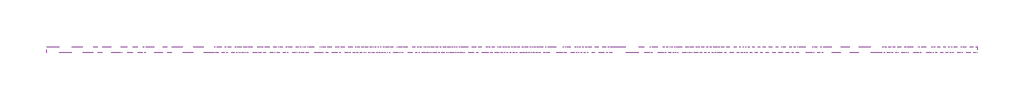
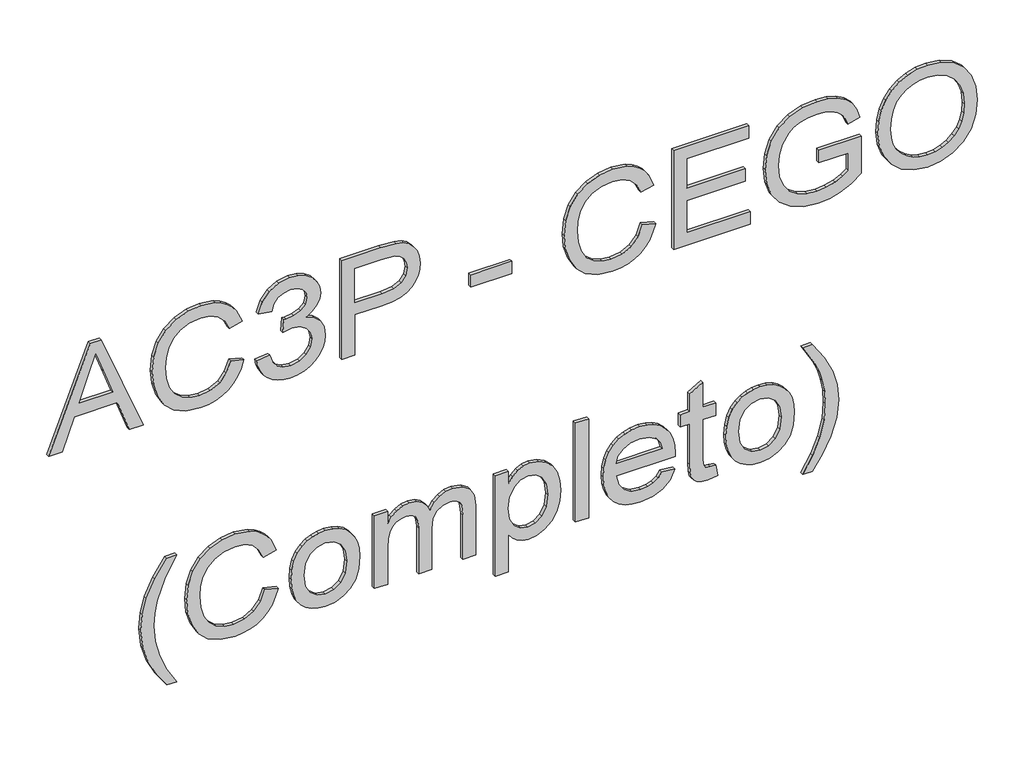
# One storey, part 6 of 12: 1 proxy.
"""IFC4 building model written with IfcOpenShell, lengths in millimetres."""

import ifcopenshell
import ifcopenshell.guid

model = None  # the IFC model being written
_history = None  # IfcOwnerHistory: only IFC2X3 demands one
_inside = {}  # id of a spatial element -> (the spatial element, [elements in it])
_under = {}  # id of a project, library or spatial element -> (it, [spatial elements below it])
_declared = {}  # id of a project -> (the project, [libraries it declares])
_typed = {}  # id of a type object -> (the type object, [elements of that type])
_made_of = {}  # id of a material, layer set ... -> (it, [elements and type objects made of it])


def new_model(schema):
    """Start an empty IFC model of exactly this schema.

    Asked for "IFC4X3", IfcOpenShell would pick the latest addendum, in which some entities
    have other attributes; the version numbers below select the first issue.
    IFC2X3 requires an IfcOwnerHistory on every rooted entity: one is made here for all.
    """
    global model, _history
    if schema == "IFC4X3":
        model = ifcopenshell.file(schema_version=(4, 3, 0, 0))
    else:
        model = ifcopenshell.file(schema=schema)
    _inside.clear()
    _under.clear()
    _declared.clear()
    _typed.clear()
    _made_of.clear()
    _history = None
    if model.schema == "IFC2X3":
        org = make("IfcOrganization", Name="unknown")
        user = make(
            "IfcPersonAndOrganization",
            ThePerson=make("IfcPerson", FamilyName="unknown"),
            TheOrganization=org,
        )
        app = make(
            "IfcApplication",
            ApplicationDeveloper=org,
            Version="unknown",
            ApplicationFullName="unknown",
            ApplicationIdentifier="unknown",
        )
        _history = make(
            "IfcOwnerHistory",
            OwningUser=user,
            OwningApplication=app,
            ChangeAction="ADDED",
            CreationDate=0,
        )
    return model


def make(cls, **values):
    """One entity of the class cls with the attributes given. An attribute that is None is left unset."""
    return model.create_entity(
        cls, **{name: value for name, value in values.items() if value is not None}
    )


def rooted(cls, **values):
    """An entity with a GlobalId (a new one), such as an element, a storey or a relation."""
    return make(cls, GlobalId=ifcopenshell.guid.new(), OwnerHistory=_history, **values)


def si_unit(unit_type, name, prefix=None):
    """IfcSIUnit, for example si_unit("LENGTHUNIT", "METRE", prefix="MILLI")."""
    return make("IfcSIUnit", UnitType=unit_type, Prefix=prefix, Name=name)


def assignment(units):
    """IfcUnitAssignment: the units of a project."""
    return None if units is None else make("IfcUnitAssignment", Units=units)


def point(xyz):
    """IfcCartesianPoint."""
    return None if xyz is None else make("IfcCartesianPoint", Coordinates=xyz)


def direction(xyz):
    """IfcDirection."""
    return None if xyz is None else make("IfcDirection", DirectionRatios=xyz)


def frame(location, z_axis=None, x_axis=None):
    """IfcAxis2Placement3D, a coordinate frame: its origin and axes. An axis left out is left unset."""
    return make(
        "IfcAxis2Placement3D",
        Location=point(location),
        Axis=direction(z_axis),
        RefDirection=direction(x_axis),
    )


def origin():
    """The frame at (0, 0, 0) with its axes left unset."""
    return frame((0.0, 0.0, 0.0))


def place(relative_to, where):
    """IfcLocalPlacement: puts the frame where relative to a parent placement (None: the world)."""
    return make(
        "IfcLocalPlacement", PlacementRelTo=relative_to, RelativePlacement=where
    )


def context(
    kind, dimensions, precision=None, world=None, true_north=None, identifier=None
):
    """IfcGeometricRepresentationContext, for example the 3D "Model" context."""
    return make(
        "IfcGeometricRepresentationContext",
        ContextIdentifier=identifier,
        ContextType=kind,
        CoordinateSpaceDimension=dimensions,
        Precision=precision,
        WorldCoordinateSystem=world,
        TrueNorth=true_north,
    )


def project(units=None, contexts=None):
    """IfcProject with its units and contexts."""
    return rooted(
        "IfcProject",
        Name="project",
        RepresentationContexts=contexts,
        UnitsInContext=assignment(units),
    )


def spatial(cls, under=None, at=None, **own):
    """A site, building, storey or space (cls), placed at a placement, below another one or the project."""
    s = rooted(cls, ObjectPlacement=at, **own)
    if under is not None:
        _under.setdefault(under.id(), (under, []))[1].append(s)
    return s


def polyline(points):
    """IfcPolyline through the points."""
    return make("IfcPolyline", Points=[point(p) for p in points])


def outline(outer, holes=None, kind="AREA"):
    """IfcArbitraryClosedProfileDef: a profile drawn as a closed curve; with holes, ...WithVoids."""
    if holes is None:
        return make("IfcArbitraryClosedProfileDef", ProfileType=kind, OuterCurve=outer)
    return make(
        "IfcArbitraryProfileDefWithVoids",
        ProfileType=kind,
        OuterCurve=outer,
        InnerCurves=holes,
    )


def extrude(swept, where, along, depth):
    """IfcExtrudedAreaSolid: the profile swept, set in the frame where, extruded along a direction by depth."""
    return make(
        "IfcExtrudedAreaSolid",
        SweptArea=swept,
        Position=where,
        ExtrudedDirection=direction(along),
        Depth=depth,
    )


def shape(context_of_items, identifier, shape_type, items):
    """IfcShapeRepresentation: the items that make up one representation, for example the "Body"."""
    return make(
        "IfcShapeRepresentation",
        ContextOfItems=context_of_items,
        RepresentationIdentifier=identifier,
        RepresentationType=shape_type,
        Items=items,
    )


def made_of(thing, what):
    """Note that an element or type object is made of a material, layer set ...; save() writes the relation."""
    if what is not None:
        _made_of.setdefault(what.id(), (what, []))[1].append(thing)
    return thing


def element(
    cls,
    number,
    at=None,
    inside=None,
    cuts=None,
    type_object=None,
    material=None,
    context=None,
    identifier="Body",
    shape_type=None,
    held_by="IfcProductDefinitionShape",
    body=None,
    shapes=None,
    **own,
):
    """One element of the class cls, such as IfcWall. Its Tag is "e" and its number.

    at: its placement. inside: the storey or other place that contains it. cuts: it is an
    opening in that element (IfcRelVoidsElement). A single representation is given by context,
    identifier, shape_type and body (its items); several are given by shapes. held_by: the class
    of the entity that holds the representations. save() writes the other relations.
    """
    e = rooted(cls, Tag="e%d" % number, ObjectPlacement=at, **own)
    if body is not None:
        shapes = [shape(context, identifier, shape_type, body)]
    if shapes is not None:
        e.Representation = make(held_by, Representations=shapes)
    if inside is not None:
        _inside.setdefault(inside.id(), (inside, []))[1].append(e)
    if cuts is not None:
        rooted(
            "IfcRelVoidsElement", RelatingBuildingElement=cuts, RelatedOpeningElement=e
        )
    if type_object is not None:
        _typed.setdefault(type_object.id(), (type_object, []))[1].append(e)
    return made_of(e, material)


def aggregate(whole, parts):
    """IfcRelAggregates: a whole, such as a stair, and the parts it consists of."""
    return rooted("IfcRelAggregates", RelatingObject=whole, RelatedObjects=parts)


def save(model, path):
    """Write the relations noted so far, then the file.

    IfcRelAggregates (storeys below a building ...), IfcRelContainedInSpatialStructure (elements
    in a storey), IfcRelDefinesByType, IfcRelAssociatesMaterial and IfcRelDeclares: one each for
    every whole, place, type object, material and project.
    """
    for whole, parts in _under.values():
        aggregate(whole, parts)
    for where, things in _inside.values():
        rooted(
            "IfcRelContainedInSpatialStructure",
            RelatedElements=things,
            RelatingStructure=where,
        )
    for kind, things in _typed.values():
        rooted("IfcRelDefinesByType", RelatedObjects=things, RelatingType=kind)
    for what, things in _made_of.values():
        rooted("IfcRelAssociatesMaterial", RelatedObjects=things, RelatingMaterial=what)
    for by, libraries in _declared.values():
        rooted("IfcRelDeclares", RelatingContext=by, RelatedDefinitions=libraries)
    model.write(path)


model = new_model("IFC4")

# Units and contexts
model_context = context("Model", 3, world=origin())
ifc_project = project(units=[si_unit("LENGTHUNIT", "METRE", prefix="MILLI")], contexts=[model_context])

# Site, building, storey
site = spatial("IfcSite", under=ifc_project)
building = spatial("IfcBuilding", under=site)
storey = spatial("IfcBuildingStorey", under=building, Name="02 - Marelli - Planta Baixa - Painéis Cego", Elevation=12000.0)

# Proxy
placement = place(None, origin())
element("IfcBuildingElementProxy", 1, Name="300mm Arial", ObjectType="300mm Arial", at=placement, inside=storey, context=model_context, shape_type="SweptSolid", body=[
    extrude(outline(polyline([(17965.9244535, 27526.1420514), (17965.9244535, 27565.9468833), (18060.1022443, 27600.380638), (18060.1022443, 27724.5040232), (17965.9244535, 27759.0113544), (17965.9244535, 27798.8161862), (18267.293384, 27678.5187738), (18267.293384, 27646.4394638), (17965.9244535, 27526.1420514)]), holes=[polyline([(18097.7733606, 27614.2130011), (18178.3395176, 27643.7171371), (18229.6222677, 27662.4791188), (18171.8647944, 27683.5955453), (18097.7733606, 27710.7452366), (18097.7733606, 27614.2130011)])]), frame((0.0, 8778.3159498, 0.0), z_axis=(0.0, 1.0, 0.0), x_axis=(0.0, 0.0, 1.0)), (0.0, 0.0, 1.0), 10.0),
    extrude(outline(polyline([(18073.0516905, 28050.9625057), (18040.7884396, 28038.7764146), (18017.5750857, 28018.9935603), (18003.5587816, 27992.7911652), (17998.8866803, 27961.3464517), (18002.3171799, 27934.3715044), (18012.6086787, 27909.3647258), (18029.8347531, 27888.5058167), (18054.0689796, 27873.9744778), (18084.1617268, 27865.4488126), (18118.9633635, 27862.6069242), (18147.3822477, 27865.0073542), (18174.9550032, 27872.2086443), (18199.3455795, 27885.3328344), (18218.2179258, 27905.5019648), (18230.3028494, 27932.081439), (18234.3311572, 27964.4366605), (18230.6983225, 27992.5060567), (18219.7998184, 28015.3515286), (18200.9550632, 28033.1938054), (18173.4834752, 28046.2536162), (18182.4597959, 28083.9247325), (18220.278065, 28067.2872693), (18235.6003501, 28055.485155), (18248.5314022, 28041.3607857), (18258.7999084, 28025.1808757), (18266.1345557, 28007.2121394), (18272.0022735, 27965.9081884), (18267.4681279, 27928.0531311), (18253.8656912, 27893.5090118), (18231.526057, 27864.3819548), (18200.7803193, 27842.7780847), (18162.8332915, 27829.3963771), (18118.8897871, 27824.9358079), (18077.2271512, 27828.8813423), (18038.3236302, 27840.7179455), (18005.2326447, 27860.1053266), (17981.0076153, 27886.7031949), (17966.1635768, 27921.4036641), (17961.215564, 27965.0988481), (17962.8503396, 27987.5212557), (17967.7546665, 28008.1410415), (17975.9285445, 28026.9582055), (17987.3719739, 28043.9727478), (18001.9286046, 28058.848976), (18019.4420868, 28071.2511978), (18039.9124206, 28081.1794131), (18063.3396059, 28088.633622), (18073.0516905, 28050.9625057)])), frame((0.0, 8778.3159498, 0.0), z_axis=(0.0, 1.0, 0.0), x_axis=(0.0, 0.0, 1.0)), (0.0, 0.0, 1.0), 10.0),
    extrude(outline(polyline([(18045.9755757, 28126.3047383), (18028.0827151, 28129.5558955), (18011.928097, 28135.6305469), (17997.5117213, 28144.5286927), (17984.8335881, 28156.2503327), (17974.5007025, 28170.2298486), (17967.12007, 28185.9016216), (17962.6916905, 28203.2656517), (17961.215564, 28222.3219391), (17962.9446094, 28243.4061759), (17968.1317455, 28262.5866235), (17976.7769724, 28279.8632817), (17988.88029, 28295.2361505), (18003.4668111, 28307.854503), (18019.5616484, 28316.8676118), (18037.1648019, 28322.2754772), (18056.2762716, 28324.0780989), (18083.2420218, 28320.4728554), (18105.2781533, 28309.6571247), (18121.5017493, 28292.18273), (18131.029893, 28268.6014941), (18141.9008059, 28286.5541354), (18155.9722922, 28299.5035817), (18172.4901938, 28307.3394682), (18190.7003526, 28309.9514303), (18210.2440836, 28307.2015124), (18228.7025627, 28298.9517587), (18244.7238236, 28285.5056718), (18256.9558999, 28267.1667543), (18264.709013, 28245.4157313), (18267.293384, 28221.7333279), (18262.0510656, 28188.8446775), (18246.3241103, 28161.8421391), (18221.0690113, 28142.10527), (18187.2422618, 28131.0136279), (18182.5333723, 28168.6847442), (18203.134764, 28175.3618024), (18217.8500438, 28187.1524203), (18226.6792117, 28203.3024399), (18229.6222677, 28223.0577031), (18226.7068029, 28242.776178), (18217.9604084, 28258.5215274), (18204.7626419, 28268.8406174), (18188.4930606, 28272.280314), (18168.9585267, 28267.5346363), (18155.2365283, 28253.2976031), (18147.1247303, 28233.1192756), (18144.4207976, 28210.5497152), (18144.862256, 28204.5164505), (18107.1911397, 28200.3225958), (18111.311418, 28226.736523), (18107.4578541, 28250.4281235), (18095.8971624, 28269.5579873), (18078.4503588, 28282.1947338), (18056.9384591, 28286.4069826), (18034.2769282, 28282.1579456), (18015.5885229, 28269.4108345), (18003.0621409, 28249.4716303), (17998.8866803, 28223.6463143), (18001.9217068, 28201.6377739), (18011.0267861, 28184.7611874), (18027.0112588, 28172.4095494), (18050.6844652, 28163.9758546), (18045.9755757, 28126.3047383)])), frame((0.0, 8778.3159498, 0.0), z_axis=(0.0, 1.0, 0.0), x_axis=(0.0, 0.0, 1.0)), (0.0, 0.0, 1.0), 10.0),
    extrude(outline(polyline([(17965.9244535, 28371.1669943), (17965.9244535, 28408.8381106), (18088.3555815, 28408.8381106), (18088.3555815, 28485.431142), (18090.0202476, 28514.6294761), (18095.0142456, 28538.9487753), (18103.3375758, 28558.3890395), (18114.990238, 28572.9502687), (18129.0479287, 28583.5567665), (18144.5863445, 28591.1328363), (18161.6054853, 28595.6784782), (18180.1053511, 28597.1936922), (18201.5620685, 28594.949612), (18221.19777, 28588.2173715), (18237.8444303, 28577.797114), (18250.334024, 28564.4889828), (18259.0620243, 28547.9618842), (18264.4239044, 28527.8847243), (18267.293384, 28482.8559681), (18267.293384, 28371.1669943), (17965.9244535, 28371.1669943)]), holes=[polyline([(18126.0266978, 28408.8381106), (18229.6222677, 28408.8381106), (18229.6222677, 28486.7555172), (18227.0470937, 28524.4266335), (18220.7195234, 28538.6544697), (18209.9773691, 28549.8472794), (18195.7035477, 28557.1037517), (18178.7809759, 28559.5225759), (18156.5057211, 28555.4206916), (18139.8590609, 28543.1150389), (18129.4847886, 28521.0421192), (18126.0266978, 28487.638434), (18126.0266978, 28408.8381106)])]), frame((0.0, 8778.3159498, 0.0), z_axis=(0.0, 1.0, 0.0), x_axis=(0.0, 0.0, 1.0)), (0.0, 0.0, 1.0), 10.0),
    extrude(outline(polyline([(28860.8915063, 8778.3159498), (28743.1692679, 8778.3159498), (28743.1692679, 8788.3159498), (28860.8915063, 8788.3159498), (28860.8915063, 8778.3159498)])), frame((0.0, 0.0, 18055.3933548), z_axis=(0.0, 0.0, 1.0), x_axis=(1.0, 0.0, 0.0)), (0.0, 0.0, 1.0), 37.6711163),
    extrude(outline(polyline([(18073.0516905, 29237.6026694), (18040.7884396, 29225.4165783), (18017.5750857, 29205.633724), (18003.5587816, 29179.4313289), (17998.8866803, 29147.9866153), (18002.3171799, 29121.011668), (18012.6086787, 29096.0048894), (18029.8347531, 29075.1459803), (18054.0689796, 29060.6146415), (18084.1617268, 29052.0889763), (18118.9633635, 29049.2470878), (18147.3822477, 29051.6475179), (18174.9550032, 29058.8488079), (18199.3455795, 29071.9729981), (18218.2179258, 29092.1421285), (18230.3028494, 29118.7216026), (18234.3311572, 29151.0768241), (18230.6983225, 29179.1462203), (18219.7998184, 29201.9916922), (18200.9550632, 29219.833969), (18173.4834752, 29232.8937798), (18182.4597959, 29270.5648961), (18220.278065, 29253.9274329), (18235.6003501, 29242.1253186), (18248.5314022, 29228.0009493), (18258.7999084, 29211.8210393), (18266.1345557, 29193.8523031), (18272.0022735, 29152.5483521), (18267.4681279, 29114.6932948), (18253.8656912, 29080.1491754), (18231.526057, 29051.0221185), (18200.7803193, 29029.4182483), (18162.8332915, 29016.0365407), (18118.8897871, 29011.5759715), (18077.2271512, 29015.5215059), (18038.3236302, 29027.3581091), (18005.2326447, 29046.7454903), (17981.0076153, 29073.3433585), (17966.1635768, 29108.0438277), (17961.215564, 29151.7390117), (17962.8503396, 29174.1614193), (17967.7546665, 29194.7812051), (17975.9285445, 29213.5983692), (17987.3719739, 29230.6129115), (18001.9286046, 29245.4891396), (18019.4420868, 29257.8913614), (18039.9124206, 29267.8195767), (18063.3396059, 29275.2737857), (18073.0516905, 29237.6026694)])), frame((0.0, 8778.3159498, 0.0), z_axis=(0.0, 1.0, 0.0), x_axis=(0.0, 0.0, 1.0)), (0.0, 0.0, 1.0), 10.0),
    extrude(outline(polyline([(17965.9244535, 29327.0715706), (17965.9244535, 29548.3893789), (18003.5955698, 29548.3893789), (18003.5955698, 29364.7426869), (18102.4822501, 29364.7426869), (18102.4822501, 29534.2627103), (18140.1533665, 29534.2627103), (18140.1533665, 29364.7426869), (18229.6222677, 29364.7426869), (18229.6222677, 29543.6804894), (18267.293384, 29543.6804894), (18267.293384, 29327.0715706), (17965.9244535, 29327.0715706)])), frame((0.0, 8778.3159498, 0.0), z_axis=(0.0, 1.0, 0.0), x_axis=(0.0, 0.0, 1.0)), (0.0, 0.0, 1.0), 10.0),
    extrude(outline(polyline([(18083.646692, 29746.1627395), (18083.646692, 29830.9227512), (18029.2001567, 29830.9227512), (18018.55917, 29814.8738991), (18008.5619768, 29792.7733883), (18001.3055044, 29767.3251513), (17998.8866803, 29741.2331208), (18002.0964507, 29711.6829995), (18011.7257619, 29683.8067413), (18027.967752, 29659.9863821), (18051.015559, 29642.6039579), (18080.6576508, 29631.9813652), (18116.6824952, 29628.440501), (18147.4006418, 29631.383557), (18175.83792, 29640.2127249), (18204.8638094, 29659.600106), (18216.8015801, 29674.0394743), (18226.2009651, 29692.41518), (18232.2986092, 29714.6444496), (18234.3311572, 29740.6445096), (18232.445762, 29762.855385), (18226.7895763, 29782.9877272), (18217.9971966, 29799.8735108), (18206.7032194, 29812.3447104), (18191.7212251, 29821.7716866), (18171.8647944, 29829.5247996), (18181.6504555, 29864.25286), (18209.4899255, 29854.6603369), (18231.4984659, 29841.4809645), (18248.494614, 29823.6662788), (18261.2969075, 29800.1678164), (18269.325932, 29772.2639671), (18272.0022735, 29741.2331208), (18267.3853545, 29698.9634795), (18253.5345974, 29661.9177626), (18230.1832877, 29631.5031187), (18197.0647111, 29609.1266963), (18157.581776, 29595.3587126), (18115.1373908, 29590.7693847), (18072.9965082, 29595.3771067), (18035.0126922, 29609.2002727), (18003.3472495, 29632.0641387), (17980.1614867, 29663.7939608), (17965.9520447, 29701.9893089), (17961.215564, 29744.2497531), (17964.1954082, 29776.5957776), (17973.1349406, 29808.1508557), (17987.9789791, 29838.8414111), (18008.6723414, 29868.5938675), (18121.3178083, 29868.5938675), (18121.3178083, 29746.1627395), (18083.646692, 29746.1627395)])), frame((0.0, 8778.3159498, 0.0), z_axis=(0.0, 1.0, 0.0), x_axis=(0.0, 0.0, 1.0)), (0.0, 0.0, 1.0), 10.0),
    extrude(outline(polyline([(18112.6357932, 29915.6827629), (18074.0909572, 29919.9869822), (18037.6246544, 29932.8996403), (18005.9316205, 29954.1632196), (17981.7065911, 29983.5202028), (17966.3383208, 30019.1679681), (17961.215564, 30059.3038938), (17965.8508771, 30097.1129658), (17979.7568166, 30132.2548934), (18002.6758649, 30162.2188819), (18034.3505046, 30184.4941368), (18072.8125672, 30198.3173027), (18116.093884, 30202.9250247), (18158.8049836, 30198.547229), (18196.7336173, 30185.4138417), (18228.3530748, 30163.9295332), (18252.1366458, 30134.4989736), (18267.0358666, 30099.0535434), (18272.0022735, 30059.524623), (18269.3581217, 30029.2341392), (18261.4256662, 30001.8591202), (18248.204907, 29977.3995661), (18229.6958441, 29955.8554768), (18206.5146799, 29938.2799144), (18179.2776166, 29925.7259413), (18147.9846544, 29918.1935575), (18112.6357932, 29915.6827629)]), holes=[polyline([(18112.2679112, 29953.3538792), (18142.8044161, 29955.3174493), (18168.6366299, 29961.2081598), (18189.7645528, 29971.0260105), (18206.1881846, 29984.7710016), (18218.5007351, 30001.2383194), (18227.2954141, 30019.2231504), (18232.5722214, 30038.7254947), (18234.3311572, 30059.7453522), (18230.6799284, 30088.9091974), (18219.726242, 30115.0380161), (18202.1322856, 30136.6970685), (18178.5602467, 30152.451615), (18149.7366924, 30162.053335), (18116.3881896, 30165.2539084), (18089.8501021, 30163.384608), (18066.5217851, 30157.7767069), (18046.4032385, 30148.4302049), (18029.4944623, 30135.3451022), (18016.1035577, 30119.3629288), (18006.5386258, 30101.3252147), (18000.7996667, 30081.23196), (17998.8866803, 30059.0831646), (18000.7812726, 30037.3068497), (18006.4650494, 30017.4481198), (18015.9380108, 29999.5069747), (18029.2001567, 29983.4834146), (18045.759445, 29970.3017428), (18065.1238335, 29960.886263), (18087.2933223, 29955.2369751), (18112.2679112, 29953.3538792)])]), frame((0.0, 8778.3159498, 0.0), z_axis=(0.0, 1.0, 0.0), x_axis=(0.0, 0.0, 1.0)), (0.0, 0.0, 1.0), 10.0),
    extrude(outline(polyline([(17149.3155348, 27867.3158137), (17149.3155348, 27895.569151), (17197.5540614, 27866.7272025), (17245.8109821, 27846.1258108), (17294.0862969, 27833.7649758), (17342.3800058, 27829.6446974), (17380.2534572, 27832.0175363), (17417.9429677, 27839.1360529), (17475.7740173, 27860.3260558), (17535.4444769, 27895.569151), (17535.4444769, 27867.3158137), (17484.934279, 27832.6245416), (17434.2033518, 27808.3075417), (17389.4137189, 27796.0570713), (17342.600735, 27791.9735811), (17289.2210575, 27797.4366288), (17237.68079, 27813.8257716), (17190.2791949, 27838.1243774), (17149.3155348, 27867.3158137)])), frame((0.0, 8778.3159498, 0.0), z_axis=(0.0, 1.0, 0.0), x_axis=(0.0, 0.0, 1.0)), (0.0, 0.0, 1.0), 10.0),
    extrude(outline(polyline([(17341.2027835, 28149.849186), (17308.9395325, 28137.6630949), (17285.7261786, 28117.8802406), (17271.7098746, 28091.6778455), (17267.0377732, 28060.233132), (17270.4682728, 28033.2581847), (17280.7597717, 28008.2514061), (17297.9858461, 27987.392497), (17322.2200725, 27972.8611582), (17352.3128197, 27964.3354929), (17387.1144565, 27961.4936045), (17415.5333406, 27963.8940345), (17443.1060961, 27971.0953246), (17467.4966724, 27984.2195148), (17486.3690188, 28004.3886451), (17498.4539423, 28030.9681193), (17502.4822501, 28063.3233408), (17498.8494154, 28091.392737), (17487.9509113, 28114.2382089), (17469.1061561, 28132.0804857), (17441.6345681, 28145.1402965), (17450.6108888, 28182.8114128), (17488.4291579, 28166.1739496), (17503.751443, 28154.3718353), (17516.6824952, 28140.247466), (17526.9510013, 28124.067556), (17534.2856486, 28106.0988198), (17540.1533665, 28064.7948687), (17535.6192209, 28026.9398114), (17522.0167841, 27992.3956921), (17499.6771499, 27963.2686351), (17468.9314122, 27941.664765), (17430.9843844, 27928.2830574), (17387.0408801, 27923.8224882), (17345.3782441, 27927.7680226), (17306.4747231, 27939.6046258), (17273.3837376, 27958.9920069), (17249.1587083, 27985.5898752), (17234.3146698, 28020.2903444), (17229.3666569, 28063.9855284), (17231.0014325, 28086.407936), (17235.9057594, 28107.0277218), (17244.0796375, 28125.8448858), (17255.5230668, 28142.8594281), (17270.0796975, 28157.7356563), (17287.5931797, 28170.1378781), (17308.0635135, 28180.0660934), (17331.4906988, 28187.5203023), (17341.2027835, 28149.849186)])), frame((0.0, 8778.3159498, 0.0), z_axis=(0.0, 1.0, 0.0), x_axis=(0.0, 0.0, 1.0)), (0.0, 0.0, 1.0), 10.0),
    extrude(outline(polyline([(17344.7344506, 28225.1914186), (17318.4124939, 28226.8997707), (17295.3646869, 28232.0248267), (17275.5910296, 28240.5665868), (17259.0915221, 28252.5250509), (17246.0868936, 28267.251827), (17236.7978732, 28284.0985231), (17231.224461, 28303.0651392), (17229.3666569, 28324.1516753), (17232.7419742, 28350.7403465), (17242.8679261, 28375.1769081), (17259.1007192, 28395.7507087), (17280.7965599, 28410.751097), (17309.767267, 28419.9113587), (17347.8246594, 28422.9647792), (17372.7049786, 28421.2380331), (17394.7388108, 28416.0577948), (17413.9261561, 28407.4240642), (17430.2670145, 28395.3368414), (17443.3199275, 28380.5272918), (17452.6434368, 28363.726581), (17458.2375424, 28344.9347088), (17460.1022443, 28324.1516753), (17458.5709355, 28305.3253142), (17453.9770091, 28287.9888752), (17446.3204651, 28272.1423583), (17435.6013034, 28257.7857634), (17418.830483, 28243.5257376), (17398.095734, 28233.3400048), (17373.3970566, 28227.2285652), (17344.7344506, 28225.1914186)]), holes=[polyline([(17344.808027, 28262.8625349), (17378.8830968, 28267.2219366), (17403.1173232, 28280.3001415), (17417.6026768, 28299.9818283), (17422.431128, 28324.1516753), (17417.5842827, 28348.0732021), (17403.0437468, 28367.7456918), (17379.0854319, 28380.9066702), (17345.9852494, 28385.2936629), (17311.1468245, 28380.9342613), (17286.535519, 28367.8560564), (17271.9122097, 28348.2111578), (17267.0377732, 28324.1516753), (17271.8846185, 28299.9818283), (17286.4251544, 28280.3001415), (17310.7145631, 28267.2219366), (17344.808027, 28262.8625349)])]), frame((0.0, 8778.3159498, 0.0), z_axis=(0.0, 1.0, 0.0), x_axis=(0.0, 0.0, 1.0)), (0.0, 0.0, 1.0), 10.0),
    extrude(outline(polyline([(17234.0755465, 28465.3447851), (17234.0755465, 28503.0159014), (17345.6909438, 28503.0159014), (17371.6082304, 28504.4506412), (17390.6461236, 28508.7548605), (17404.368122, 28516.2596532), (17414.3377241, 28527.2961131), (17420.407777, 28540.6686236), (17422.431128, 28555.1815683), (17419.3961015, 28572.2604899), (17410.2910222, 28583.7659993), (17395.0974958, 28590.3051018), (17373.7971282, 28592.4848026), (17234.0755465, 28592.4848026), (17234.0755465, 28630.1559189), (17359.008272, 28630.1559189), (17387.7214617, 28633.8439359), (17407.3479662, 28644.9079869), (17418.6603375, 28661.5454502), (17422.431128, 28681.9537039), (17420.9596, 28693.5143956), (17416.5450161, 28703.4748006), (17409.7300021, 28711.2187166), (17401.0571841, 28716.1299412), (17369.6032735, 28719.6248202), (17234.0755465, 28719.6248202), (17234.0755465, 28757.2959365), (17385.7900813, 28757.2959365), (17418.7615051, 28752.9825201), (17441.8920855, 28740.0422709), (17455.5497046, 28719.1005883), (17460.1022443, 28690.7828717), (17457.366122, 28671.2575348), (17449.1577549, 28653.6635784), (17435.4771432, 28638.0010025), (17416.3242869, 28624.269807), (17434.7643719, 28616.0660385), (17448.5875379, 28603.5212625), (17457.2235677, 28586.7274494), (17460.1022443, 28565.7765698), (17457.27875, 28546.2236417), (17448.808267, 28528.9147939), (17435.702471, 28514.3466669), (17418.9730372, 28503.0159014), (17455.3933548, 28503.0159014), (17455.3933548, 28465.3447851), (17234.0755465, 28465.3447851)])), frame((0.0, 8778.3159498, 0.0), z_axis=(0.0, 1.0, 0.0), x_axis=(0.0, 0.0, 1.0)), (0.0, 0.0, 1.0), 10.0),
    extrude(outline(polyline([(17149.3155348, 28813.8026109), (17149.3155348, 28851.4737272), (17263.5061061, 28851.4737272), (17249.9956398, 28862.1147139), (17239.0419534, 28875.3492687), (17231.785481, 28890.8095096), (17229.3666569, 28908.1275545), (17232.9810975, 28932.5457219), (17243.8244193, 28955.7682729), (17261.4459669, 28975.707477), (17285.3950848, 28990.275604), (17314.2094421, 28999.1875453), (17346.4267078, 29002.1581925), (17376.7217901, 28999.5278362), (17404.4784866, 28991.6367674), (17427.9861461, 28978.5769566), (17445.5341173, 28960.4403742), (17456.4602125, 28938.1651194), (17460.1022443, 28912.6892912), (17457.4994792, 28893.5594275), (17449.6911838, 28877.5197725), (17436.6773583, 28863.7609859), (17418.4580024, 28851.4737272), (17455.3933548, 28851.4737272), (17455.3933548, 28813.8026109), (17149.3155348, 28813.8026109)]), holes=[polyline([(17342.968617, 28851.4737272), (17377.1356573, 28855.8239318), (17402.0872537, 28868.8745456), (17417.3451594, 28887.572148), (17422.431128, 28908.8633185), (17417.6486621, 28930.0717155), (17403.3012642, 28948.0795392), (17379.3521464, 28960.3851919), (17345.7645202, 28964.4870761), (17310.7237602, 28960.2840244), (17286.2412134, 28947.674869), (17271.8386333, 28929.1796017), (17267.0377732, 28907.3182141), (17271.6730864, 28885.8063144), (17285.5790258, 28867.7708996), (17309.1970499, 28855.5480203), (17342.968617, 28851.4737272)])]), frame((0.0, 8778.3159498, 0.0), z_axis=(0.0, 1.0, 0.0), x_axis=(0.0, 0.0, 1.0)), (0.0, 0.0, 1.0), 10.0),
    extrude(outline(polyline([(29082.2093146, 8778.3159498), (29044.5381983, 8778.3159498), (29044.5381983, 8788.3159498), (29082.2093146, 8788.3159498), (29082.2093146, 8778.3159498)])), frame((0.0, 0.0, 17234.0755465), z_axis=(0.0, 0.0, 1.0), x_axis=(1.0, 0.0, 0.0)), (0.0, 0.0, 1.0), 301.3689304),
    extrude(outline(polyline([(17300.0, 29293.6678854), (17285.1191733, 29283.1096722), (17274.9104479, 29269.3876738), (17269.0059419, 29252.5018902), (17267.0377732, 29232.4523214), (17271.2868103, 29205.7900738), (17284.0339214, 29183.9286863), (17304.7640718, 29168.7811451), (17332.9622268, 29162.2604368), (17332.9622268, 29331.5597309), (17343.1157698, 29331.7804601), (17369.3687487, 29329.9939332), (17392.5039277, 29324.6343524), (17412.5213067, 29315.7017177), (17429.4208859, 29303.1960291), (17442.8439802, 29287.8760433), (17452.4319047, 29270.5005168), (17458.1846594, 29251.0694497), (17460.1022443, 29229.5828419), (17458.1800609, 29207.3811635), (17452.4135106, 29187.3499888), (17442.8025935, 29169.489318), (17429.3473095, 29153.7991509), (17412.4109422, 29141.0198501), (17392.3567749, 29131.8917781), (17369.1848077, 29126.4149349), (17342.8950406, 29124.5893205), (17317.467497, 29126.3965408), (17295.0427901, 29131.8182017), (17275.62092, 29140.8543032), (17259.2018867, 29153.5048453), (17246.1489737, 29169.2363991), (17236.8254644, 29187.5155357), (17231.2313588, 29208.3422552), (17229.3666569, 29231.7165574), (17233.6892704, 29267.3735198), (17246.6571107, 29296.0591184), (17267.4608375, 29317.2951066), (17295.2911105, 29330.6032377), (17300.0, 29293.6678854)]), holes=[polyline([(17370.6333431, 29162.2604368), (17391.8693312, 29168.4500513), (17408.3412476, 29183.0457695), (17418.9086579, 29204.0426344), (17422.431128, 29229.4356891), (17418.0165441, 29257.0636269), (17404.7727922, 29279.026182), (17390.535759, 29289.0141782), (17370.6333431, 29294.1093438), (17370.6333431, 29162.2604368)])]), frame((0.0, 8778.3159498, 0.0), z_axis=(0.0, 1.0, 0.0), x_axis=(0.0, 0.0, 1.0)), (0.0, 0.0, 1.0), 10.0),
    extrude(outline(polyline([(17265.4926689, 29449.5026986), (17267.0377732, 29433.0951616), (17269.576159, 29420.25608), (17276.4555523, 29413.8181451), (17295.8797217, 29411.8315823), (17417.7222385, 29411.8315823), (17417.7222385, 29449.5026986), (17455.3933548, 29449.5026986), (17455.3933548, 29411.8315823), (17531.3241986, 29411.8315823), (17509.1777025, 29374.160466), (17455.3933548, 29374.160466), (17455.3933548, 29345.9071287), (17417.7222385, 29345.9071287), (17417.7222385, 29374.160466), (17294.7760757, 29374.160466), (17267.7919313, 29375.3009002), (17252.0281878, 29378.7222027), (17242.849532, 29384.9394084), (17235.6206508, 29394.4675521), (17230.9301554, 29407.9504272), (17229.3666569, 29426.0318273), (17232.9719005, 29454.2115881), (17265.4926689, 29449.5026986)])), frame((0.0, 8778.3159498, 0.0), z_axis=(0.0, 1.0, 0.0), x_axis=(0.0, 0.0, 1.0)), (0.0, 0.0, 1.0), 10.0),
    extrude(outline(polyline([(17344.7344506, 29477.7560358), (17318.4124939, 29479.4643878), (17295.3646869, 29484.5894439), (17275.5910296, 29493.131204), (17259.0915221, 29505.0896681), (17246.0868936, 29519.8164442), (17236.7978732, 29536.6631403), (17231.224461, 29555.6297564), (17229.3666569, 29576.7162925), (17232.7419742, 29603.3049637), (17242.8679261, 29627.7415253), (17259.1007192, 29648.3153258), (17280.7965599, 29663.3157142), (17309.767267, 29672.4759759), (17347.8246594, 29675.5293964), (17372.7049786, 29673.8026503), (17394.7388108, 29668.622412), (17413.9261561, 29659.9886814), (17430.2670145, 29647.9014586), (17443.3199275, 29633.091909), (17452.6434368, 29616.2911982), (17458.2375424, 29597.499326), (17460.1022443, 29576.7162925), (17458.5709355, 29557.8899314), (17453.9770091, 29540.5534924), (17446.3204651, 29524.7069755), (17435.6013034, 29510.3503806), (17418.830483, 29496.0903548), (17398.095734, 29485.904622), (17373.3970566, 29479.7931824), (17344.7344506, 29477.7560358)]), holes=[polyline([(17344.808027, 29515.4271521), (17378.8830968, 29519.7865538), (17403.1173232, 29532.8647587), (17417.6026768, 29552.5464454), (17422.431128, 29576.7162925), (17417.5842827, 29600.6378193), (17403.0437468, 29620.310309), (17379.0854319, 29633.4712873), (17345.9852494, 29637.8582801), (17311.1468245, 29633.4988785), (17286.535519, 29620.4206735), (17271.9122097, 29600.775775), (17267.0377732, 29576.7162925), (17271.8846185, 29552.5464454), (17286.4251544, 29532.8647587), (17310.7145631, 29519.7865538), (17344.808027, 29515.4271521)])]), frame((0.0, 8778.3159498, 0.0), z_axis=(0.0, 1.0, 0.0), x_axis=(0.0, 0.0, 1.0)), (0.0, 0.0, 1.0), 10.0),
    extrude(outline(polyline([(17149.3155348, 29727.3271813), (17190.2791949, 29756.3806619), (17237.68079, 29780.7068588), (17289.2210575, 29797.1787752), (17342.600735, 29802.669414), (17389.4137189, 29798.5859238), (17434.2033518, 29786.3354534), (17484.934279, 29762.0184535), (17535.4444769, 29727.3271813), (17535.4444769, 29699.0738441), (17475.1854061, 29734.5376685), (17446.8400984, 29746.5122274), (17417.2807801, 29755.5069422), (17379.9775458, 29762.6254588), (17342.3800058, 29764.9982977), (17294.0862969, 29760.8780193), (17245.8109821, 29748.5171843), (17197.5540614, 29727.9157925), (17149.3155348, 29699.0738441), (17149.3155348, 29727.3271813)])), frame((0.0, 8778.3159498, 0.0), z_axis=(0.0, 1.0, 0.0), x_axis=(0.0, 0.0, 1.0)), (0.0, 0.0, 1.0), 10.0),
])

save(model, "model.ifc")
